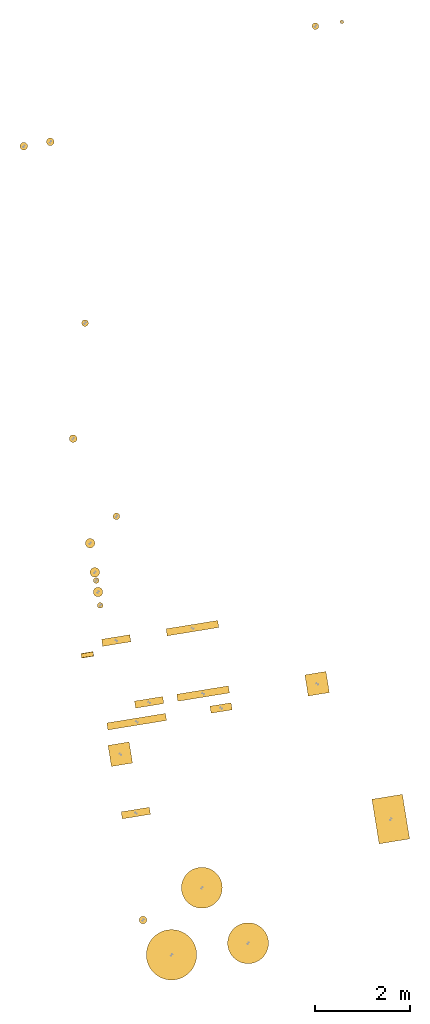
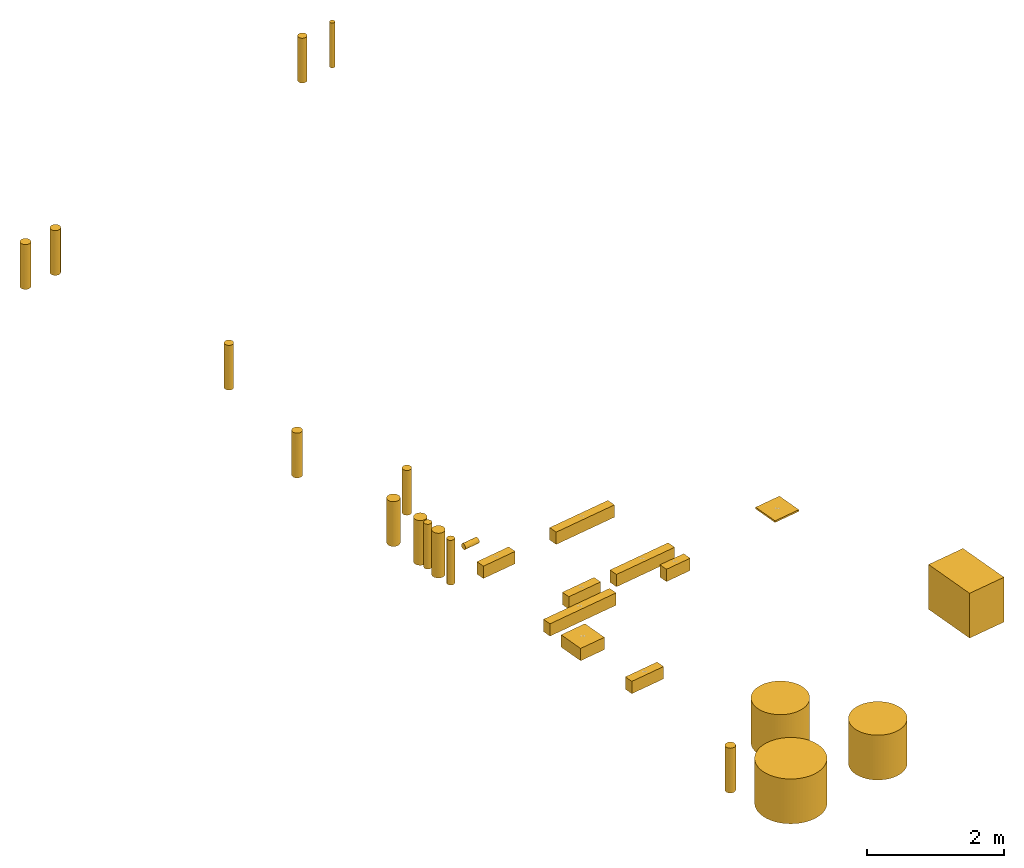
# One storey, part 4 of 4: 27 windows.
"""IFC2X3 building model written with IfcOpenShell, lengths in millimetres."""

from ifc_helpers import new_model, entity, si_unit, converted_unit, derived_unit, direction, frame, frame_2d, origin, origin_with_axes, origin_2d_with_axis, place, context, subcontext, project, spatial, rectangle, circle, extrude, source, transform, mapped, material, type_object, element, save


model = new_model("IFC2X3")

# Units and contexts
plan_context = context("Plan", 3, precision=1e-05, world=origin_with_axes())
model_context = context("Model", 3, precision=0.01, world=origin(), true_north=direction((6.12323399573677e-17, 1.0)))
body_context = subcontext(model_context, "Body", "Model", "MODEL_VIEW")
ifc_project = project(units=[converted_unit("PLANEANGLEUNIT", "DEGREE", entity("IfcPositiveLengthMeasure", 0.0174532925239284), si_unit("PLANEANGLEUNIT", "RADIAN"), dimensions=[0, 0, 0, 0, 0, 0, 0]), si_unit("AREAUNIT", "SQUARE_METRE"), si_unit("LENGTHUNIT", "METRE", prefix="MILLI"), si_unit("MASSUNIT", "GRAM", prefix="KILO"), si_unit("POWERUNIT", "WATT"), si_unit("PRESSUREUNIT", "PASCAL", prefix="KILO"), si_unit("FORCEUNIT", "NEWTON", prefix="KILO"), si_unit("ELECTRICVOLTAGEUNIT", "VOLT"), si_unit("ELECTRICCURRENTUNIT", "AMPERE"), si_unit("THERMODYNAMICTEMPERATUREUNIT", "DEGREE_CELSIUS"), si_unit("TIMEUNIT", "SECOND"), si_unit("VOLUMEUNIT", "CUBIC_METRE"), derived_unit("LINEARVELOCITYUNIT", [(si_unit("LENGTHUNIT", "METRE"), 1), (si_unit("TIMEUNIT", "SECOND"), -1)]), derived_unit("VOLUMETRICFLOWRATEUNIT", [(si_unit("VOLUMEUNIT", "CUBIC_METRE"), 1), (si_unit("TIMEUNIT", "SECOND"), -1)]), derived_unit("THERMALTRANSMITTANCEUNIT", [(si_unit("POWERUNIT", "WATT"), 1), (si_unit("THERMODYNAMICTEMPERATUREUNIT", "KELVIN"), -1), (si_unit("AREAUNIT", "SQUARE_METRE"), -1)]), derived_unit("SOUNDPRESSUREUNIT", [(si_unit("PRESSUREUNIT", "PASCAL"), 1)])], contexts=[model_context, plan_context])

# Site, building, storey
site_placement = place(None, frame((-0.00071070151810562, 0.00438415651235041, 0.0), z_axis=(0.0, 0.0, 1.0), x_axis=(-0.160236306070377, 0.987078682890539, 0.0)))
site = spatial("IfcSite", under=ifc_project, at=site_placement, Name="Default", CompositionType="ELEMENT")
building_placement = place(site_placement, origin_with_axes())
building = spatial("IfcBuilding", under=site, at=building_placement, CompositionType="ELEMENT")
storey_placement = place(building_placement, frame((0.0, 0.0, 58999.9999999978), z_axis=(0.0, 0.0, 1.0), x_axis=(1.0, 0.0, 0.0)))
storey = spatial("IfcBuildingStorey", under=building, at=storey_placement, Name="Nivå F", CompositionType="ELEMENT", Elevation=58999.9999999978)

# Windows
ifc_material = material(Name="Utsparing")
window_style_1 = type_object("IfcWindowStyle", Name="Utsparing Sirkulær:V", ConstructionType="NOTDEFINED", OperationType="NOTDEFINED", ParameterTakesPrecedence=False, Sizeable=False, material=ifc_material)
shared_shape_1 = source(origin(), body_context, "Body", "SweptSolid", [
    extrude(circle(Radius=430.0, at=frame_2d((0.0, -6.94684167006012e-13), x_axis=(1.0, 0.0))), frame((0.0, 0.0, 0.0), z_axis=(0.0, 0.0, 1.0), x_axis=(-1.0, 0.0, 0.0)), (0.0, 0.0, 1.0), 799.999999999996),
])
window_1_placement = place(storey_placement, frame((765178.590423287, -502496.834705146, -800.0), z_axis=(0.0, 0.0, 1.0), x_axis=(1.0, 0.0, 0.0)))
element("IfcWindow", 1, at=window_1_placement, inside=storey, type_object=window_style_1, material=ifc_material, Name="Utsparing Sirkulær:V", ObjectType="Utsparing Sirkulær:V", OverallHeight=860.0, OverallWidth=860.000000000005, context=body_context, shape_type="MappedRepresentation", body=[
    mapped(shared_shape_1, transform((0.0, 0.0, 0.0), scale=1.0)),
])
window_style_2 = type_object("IfcWindowStyle", Name="Utsparing Sirkulær:V", ConstructionType="NOTDEFINED", OperationType="NOTDEFINED", ParameterTakesPrecedence=False, Sizeable=False, material=ifc_material)
window_2_placement = place(storey_placement, frame((763870.86087582, -503270.00861507, -800.0), z_axis=(0.0, 0.0, 1.0), x_axis=(1.0, 0.0, 0.0)))
element("IfcWindow", 2, at=window_2_placement, inside=storey, type_object=window_style_2, material=ifc_material, Name="Utsparing Sirkulær:V", ObjectType="Utsparing Sirkulær:V", OverallHeight=860.0, OverallWidth=860.000000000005, context=body_context, shape_type="MappedRepresentation", body=[
    mapped(shared_shape_1, transform((0.0, 0.0, 0.0), scale=1.0)),
])
window_style_3 = type_object("IfcWindowStyle", Name="Hullboring Sirkulær:V", ConstructionType="NOTDEFINED", OperationType="NOTDEFINED", ParameterTakesPrecedence=False, Sizeable=False, material=ifc_material)
shared_shape_2 = source(origin(), body_context, "Body", "SweptSolid", [
    extrude(circle(Radius=80.0, at=frame_2d((0.0, -1.29243565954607e-13), x_axis=(1.0, 0.0))), frame((0.0, 0.0, 0.0), z_axis=(0.0, 0.0, 1.0), x_axis=(-1.0, 0.0, 0.0)), (0.0, 0.0, 1.0), 799.999999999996),
])
window_3_placement = place(storey_placement, frame((764707.011605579, -501165.91880016, -800.0), z_axis=(0.0, 0.0, 1.0), x_axis=(1.0, 0.0, 0.0)))
element("IfcWindow", 3, at=window_3_placement, inside=storey, type_object=window_style_3, material=ifc_material, Name="Hullboring Sirkulær:V", ObjectType="Hullboring Sirkulær:V", OverallHeight=200.000000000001, OverallWidth=160.000000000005, context=body_context, shape_type="MappedRepresentation", body=[
    mapped(shared_shape_2, transform((0.0, 0.0, 0.0), scale=1.0)),
])
window_style_4 = type_object("IfcWindowStyle", Name="Hullboring Sirkulær:V", ConstructionType="NOTDEFINED", OperationType="NOTDEFINED", ParameterTakesPrecedence=False, Sizeable=False, material=ifc_material)
window_4_placement = place(storey_placement, frame((781183.362919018, -501299.044759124, -800.0), z_axis=(0.0, 0.0, 1.0), x_axis=(1.0, 0.0, 0.0)))
element("IfcWindow", 4, at=window_4_placement, inside=storey, type_object=window_style_4, material=ifc_material, Name="Hullboring Sirkulær:V", ObjectType="Hullboring Sirkulær:V", OverallHeight=200.000000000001, OverallWidth=160.000000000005, context=body_context, shape_type="MappedRepresentation", body=[
    mapped(shared_shape_2, transform((0.0, 0.0, 0.0), scale=1.0)),
])
window_style_5 = type_object("IfcWindowStyle", Name="Hullboring Sirkulær:V", ConstructionType="NOTDEFINED", OperationType="NOTDEFINED", ParameterTakesPrecedence=False, Sizeable=False, material=ifc_material)
window_5_placement = place(storey_placement, frame((781183.478688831, -501863.828201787, -800.0), z_axis=(0.0, 0.0, 1.0), x_axis=(1.0, 0.0, 0.0)))
element("IfcWindow", 5, at=window_5_placement, inside=storey, type_object=window_style_5, material=ifc_material, Name="Hullboring Sirkulær:V", ObjectType="Hullboring Sirkulær:V", OverallHeight=200.000000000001, OverallWidth=160.000000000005, context=body_context, shape_type="MappedRepresentation", body=[
    mapped(shared_shape_2, transform((0.0, 0.0, 0.0), scale=1.0)),
])
window_style_6 = type_object("IfcWindowStyle", Name="Hullboring Sirkulær:V", ConstructionType="NOTDEFINED", OperationType="NOTDEFINED", ParameterTakesPrecedence=False, Sizeable=False, material=ifc_material)
window_6_placement = place(storey_placement, frame((774942.68391495, -501337.867184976, -800.0), z_axis=(0.0, 0.0, 1.0), x_axis=(1.0, 0.0, 0.0)))
element("IfcWindow", 6, at=window_6_placement, inside=storey, type_object=window_style_6, material=ifc_material, Name="Hullboring Sirkulær:V", ObjectType="Hullboring Sirkulær:V", OverallHeight=200.000000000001, OverallWidth=160.000000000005, context=body_context, shape_type="MappedRepresentation", body=[
    mapped(shared_shape_2, transform((0.0, 0.0, 0.0), scale=1.0)),
])
window_style_7 = type_object("IfcWindowStyle", Name="Utsparing Sirkulær:V", ConstructionType="NOTDEFINED", OperationType="NOTDEFINED", ParameterTakesPrecedence=False, Sizeable=False, material=ifc_material)
shared_shape_3 = source(origin(), body_context, "Body", "SweptSolid", [
    extrude(circle(Radius=530.0, at=frame_2d((0.0, -8.56238624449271e-13), x_axis=(1.0, 0.0))), frame((0.0, 0.0, 0.0), z_axis=(0.0, 0.0, 1.0), x_axis=(-1.0, 0.0, 0.0)), (0.0, 0.0, 1.0), 799.999999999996),
])
window_7_placement = place(storey_placement, frame((763887.589603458, -501640.722911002, -800.0), z_axis=(0.0, 0.0, 1.0), x_axis=(1.0, 0.0, 0.0)))
element("IfcWindow", 7, at=window_7_placement, inside=storey, type_object=window_style_7, material=ifc_material, Name="Utsparing Sirkulær:V", ObjectType="Utsparing Sirkulær:V", OverallHeight=1060.0, OverallWidth=1060.00000000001, context=body_context, shape_type="MappedRepresentation", body=[
    mapped(shared_shape_3, transform((0.0, 0.0, 0.0), scale=1.0)),
])
window_style_8 = type_object("IfcWindowStyle", Name="Hullboring Sirkulær:V", ConstructionType="NOTDEFINED", OperationType="NOTDEFINED", ParameterTakesPrecedence=False, Sizeable=False, material=ifc_material)
shared_shape_4 = source(origin(), body_context, "Body", "SweptSolid", [
    extrude(circle(Radius=60.0, at=frame_2d((0.0, -9.69326744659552e-14), x_axis=(1.0, 0.0))), frame((0.0, 0.0, 0.0), z_axis=(0.0, 0.0, 1.0), x_axis=(-1.0, 0.0, 0.0)), (0.0, 0.0, 1.0), 799.999999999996),
])
window_8_placement = place(storey_placement, frame((771386.919644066, -501336.519932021, -800.0), z_axis=(0.0, 0.0, 1.0), x_axis=(1.0, 0.0, 0.0)))
element("IfcWindow", 8, at=window_8_placement, inside=storey, type_object=window_style_8, material=ifc_material, Name="Hullboring Sirkulær:V", ObjectType="Hullboring Sirkulær:V", OverallHeight=200.000000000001, OverallWidth=120.000000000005, context=body_context, shape_type="MappedRepresentation", body=[
    mapped(shared_shape_4, transform((0.0, 0.0, 0.0), scale=1.0)),
])
window_style_9 = type_object("IfcWindowStyle", Name="Hullboring Sirkulær:V", ConstructionType="NOTDEFINED", OperationType="NOTDEFINED", ParameterTakesPrecedence=False, Sizeable=False, material=ifc_material)
window_9_placement = place(storey_placement, frame((771916.919644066, -501336.519932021, -800.0), z_axis=(0.0, 0.0, 1.0), x_axis=(1.0, 0.0, 0.0)))
element("IfcWindow", 9, at=window_9_placement, inside=storey, type_object=window_style_9, material=ifc_material, Name="Hullboring Sirkulær:V", ObjectType="Hullboring Sirkulær:V", OverallHeight=200.000000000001, OverallWidth=120.000000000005, context=body_context, shape_type="MappedRepresentation", body=[
    mapped(shared_shape_4, transform((0.0, 0.0, 0.0), scale=1.0)),
])
window_style_10 = type_object("IfcWindowStyle", Name="Utsparing Rektangulær:V", ConstructionType="NOTDEFINED", OperationType="NOTDEFINED", ParameterTakesPrecedence=False, Sizeable=False, material=ifc_material)
shared_shape_5 = source(origin(), body_context, "Body", "SweptSolid", [
    extrude(rectangle(XDim=950.0, YDim=649.999999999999, at=origin_2d_with_axis()), frame((0.0, 0.0, 0.0), z_axis=(0.0, 0.0, 1.0), x_axis=(-1.0, 0.0, 0.0)), (0.0, 0.0, 1.0), 799.999999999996),
])
window_10_placement = place(storey_placement, frame((765967.619644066, -506652.480498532, -800.0), z_axis=(0.0, 0.0, 1.0), x_axis=(1.0, 0.0, 0.0)))
element("IfcWindow", 10, at=window_10_placement, inside=storey, type_object=window_style_10, material=ifc_material, Name="Utsparing Rektangulær:V", ObjectType="Utsparing Rektangulær:V", OverallHeight=749.999999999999, OverallWidth=1050.0, context=body_context, shape_type="MappedRepresentation", body=[
    mapped(shared_shape_5, transform((0.0, 0.0, 0.0), scale=1.0)),
])
window_style_11 = type_object("IfcWindowStyle", Name="Utsparing Rektangulær:E", ConstructionType="NOTDEFINED", OperationType="NOTDEFINED", ParameterTakesPrecedence=False, Sizeable=False, material=ifc_material)
shared_shape_6 = source(origin(), body_context, "Body", "SweptSolid", [
    extrude(rectangle(XDim=450.0, YDim=449.999999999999, at=origin_2d_with_axis()), frame((0.0, 0.0, 0.0), z_axis=(0.0, 0.0, 1.0), x_axis=(-1.0, 0.0, 0.0)), (0.0, 0.0, 1.0), 29.9999999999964),
])
window_11_placement = place(storey_placement, frame((769027.619644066, -505579.077763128, -70.0), z_axis=(0.0, 0.0, -1.0), x_axis=(1.0, 0.0, 0.0)))
element("IfcWindow", 11, at=window_11_placement, inside=storey, type_object=window_style_11, material=ifc_material, Name="Utsparing Rektangulær:E", ObjectType="Utsparing Rektangulær:E", OverallHeight=549.999999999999, OverallWidth=550.000000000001, context=body_context, shape_type="MappedRepresentation", body=[
    mapped(shared_shape_6, transform((0.0, 0.0, 0.0), scale=1.0)),
])
window_style_12 = type_object("IfcWindowStyle", Name="Hullboring Sirkulær:V", ConstructionType="NOTDEFINED", OperationType="NOTDEFINED", ParameterTakesPrecedence=False, Sizeable=False, material=ifc_material)
shared_shape_7 = source(origin(), body_context, "Body", "SweptSolid", [
    extrude(circle(Radius=100.0, at=frame_2d((0.0, -1.61554457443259e-13), x_axis=(1.0, 0.0))), frame((0.0, 0.0, 0.0), z_axis=(0.0, 0.0, 1.0), x_axis=(-1.0, 0.0, 0.0)), (0.0, 0.0, 1.0), 799.999999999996),
])
window_12_placement = place(storey_placement, frame((771672.62648396, -501337.287481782, -800.0), z_axis=(0.0, 0.0, 1.0), x_axis=(1.0, 0.0, 0.0)))
element("IfcWindow", 12, at=window_12_placement, inside=storey, type_object=window_style_12, material=ifc_material, Name="Hullboring Sirkulær:V", ObjectType="Hullboring Sirkulær:V", OverallHeight=200.000000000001, OverallWidth=200.000000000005, context=body_context, shape_type="MappedRepresentation", body=[
    mapped(shared_shape_7, transform((0.0, 0.0, 0.0), scale=1.0)),
])
window_style_13 = type_object("IfcWindowStyle", Name="Hullboring Sirkulær:V", ConstructionType="NOTDEFINED", OperationType="NOTDEFINED", ParameterTakesPrecedence=False, Sizeable=False, material=ifc_material)
window_13_placement = place(storey_placement, frame((772092.619232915, -501337.287481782, -800.0), z_axis=(0.0, 0.0, 1.0), x_axis=(1.0, 0.0, 0.0)))
element("IfcWindow", 13, at=window_13_placement, inside=storey, type_object=window_style_13, material=ifc_material, Name="Hullboring Sirkulær:V", ObjectType="Hullboring Sirkulær:V", OverallHeight=200.000000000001, OverallWidth=200.000000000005, context=body_context, shape_type="MappedRepresentation", body=[
    mapped(shared_shape_7, transform((0.0, 0.0, 0.0), scale=1.0)),
])
window_style_14 = type_object("IfcWindowStyle", Name="Hullboring Sirkulær:V", ConstructionType="NOTDEFINED", OperationType="NOTDEFINED", ParameterTakesPrecedence=False, Sizeable=False, material=ifc_material)
window_14_placement = place(storey_placement, frame((772712.619232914, -501337.287481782, -800.0), z_axis=(0.0, 0.0, 1.0), x_axis=(1.0, 0.0, 0.0)))
element("IfcWindow", 14, at=window_14_placement, inside=storey, type_object=window_style_14, material=ifc_material, Name="Hullboring Sirkulær:V", ObjectType="Hullboring Sirkulær:V", OverallHeight=200.000000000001, OverallWidth=200.000000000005, context=body_context, shape_type="MappedRepresentation", body=[
    mapped(shared_shape_7, transform((0.0, 0.0, 0.0), scale=1.0)),
])
window_style_15 = type_object("IfcWindowStyle", Name="Utsparing Rektangulær:E", ConstructionType="NOTDEFINED", OperationType="NOTDEFINED", ParameterTakesPrecedence=False, Sizeable=False, material=ifc_material)
shared_shape_8 = source(origin(), body_context, "Body", "SweptSolid", [
    extrude(rectangle(XDim=450.0, YDim=449.999999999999, at=origin_2d_with_axis()), frame((0.0, 0.0, 0.0), z_axis=(0.0, 0.0, 1.0), x_axis=(-1.0, 0.0, 0.0)), (0.0, 0.0, 1.0), 219.999999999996),
])
window_15_placement = place(storey_placement, frame((768227.61964402, -501252.480498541, 2.19733919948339e-09), z_axis=(0.0, 0.0, -1.0), x_axis=(1.0, 0.0, 0.0)))
element("IfcWindow", 15, at=window_15_placement, inside=storey, type_object=window_style_15, material=ifc_material, Name="Utsparing Rektangulær:E", ObjectType="Utsparing Rektangulær:E", OverallHeight=549.999999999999, OverallWidth=550.000000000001, context=body_context, shape_type="MappedRepresentation", body=[
    mapped(shared_shape_8, transform((0.0, 0.0, 0.0), scale=1.0)),
])
window_style_16 = type_object("IfcWindowStyle", Name="Utsparing Rektangulær:E", ConstructionType="NOTDEFINED", OperationType="NOTDEFINED", ParameterTakesPrecedence=False, Sizeable=False, material=ifc_material)
shared_shape_9 = source(origin(), body_context, "Body", "SweptSolid", [
    extrude(rectangle(XDim=150.0, YDim=599.999999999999, at=origin_2d_with_axis()), frame((0.0, 0.0, 0.0), z_axis=(0.0, 0.0, 1.0), x_axis=(-1.0, 0.0, 0.0)), (0.0, 0.0, 1.0), 219.999999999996),
])
window_16_placement = place(storey_placement, frame((766952.619644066, -501377.470605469, 2.19733919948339e-09), z_axis=(0.0, 0.0, -1.0), x_axis=(1.0, 0.0, 0.0)))
element("IfcWindow", 16, at=window_16_placement, inside=storey, type_object=window_style_16, material=ifc_material, Name="Utsparing Rektangulær:E", ObjectType="Utsparing Rektangulær:E", OverallHeight=699.999999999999, OverallWidth=250.000000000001, context=body_context, shape_type="MappedRepresentation", body=[
    mapped(shared_shape_9, transform((0.0, 0.0, 0.0), scale=1.0)),
])
window_style_17 = type_object("IfcWindowStyle", Name="Utsparing Rektangulær:E", ConstructionType="NOTDEFINED", OperationType="NOTDEFINED", ParameterTakesPrecedence=False, Sizeable=False, material=ifc_material)
window_17_placement = place(storey_placement, frame((770602.619644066, -501552.470605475, 2.19733919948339e-09), z_axis=(0.0, 0.0, -1.0), x_axis=(1.0, 0.0, 0.0)))
element("IfcWindow", 17, at=window_17_placement, inside=storey, type_object=window_style_17, material=ifc_material, Name="Utsparing Rektangulær:E", ObjectType="Utsparing Rektangulær:E", OverallHeight=699.999999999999, OverallWidth=250.000000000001, context=body_context, shape_type="MappedRepresentation", body=[
    mapped(shared_shape_9, transform((0.0, 0.0, 0.0), scale=1.0)),
])
window_style_18 = type_object("IfcWindowStyle", Name="Utsparing Rektangulær:E", ConstructionType="NOTDEFINED", OperationType="NOTDEFINED", ParameterTakesPrecedence=False, Sizeable=False, material=ifc_material)
window_18_placement = place(storey_placement, frame((769207.619644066, -502027.470605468, 2.19733919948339e-09), z_axis=(0.0, 0.0, -1.0), x_axis=(1.0, 0.0, 0.0)))
element("IfcWindow", 18, at=window_18_placement, inside=storey, type_object=window_style_18, material=ifc_material, Name="Utsparing Rektangulær:E", ObjectType="Utsparing Rektangulær:E", OverallHeight=699.999999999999, OverallWidth=250.000000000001, context=body_context, shape_type="MappedRepresentation", body=[
    mapped(shared_shape_9, transform((0.0, 0.0, 0.0), scale=1.0)),
])
window_style_19 = type_object("IfcWindowStyle", Name="Utsparing Rektangulær:E", ConstructionType="NOTDEFINED", OperationType="NOTDEFINED", ParameterTakesPrecedence=False, Sizeable=False, material=ifc_material)
shared_shape_10 = source(origin(), body_context, "Body", "SweptSolid", [
    extrude(rectangle(XDim=150.0, YDim=1250.0, at=origin_2d_with_axis()), frame((0.0, 0.0, 0.0), z_axis=(0.0, 0.0, 1.0), x_axis=(-1.0, 0.0, 0.0)), (0.0, 0.0, 1.0), 219.999999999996),
])
window_19_placement = place(storey_placement, frame((768847.619644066, -501702.470605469, 2.19733919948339e-09), z_axis=(0.0, 0.0, -1.0), x_axis=(1.0, 0.0, 0.0)))
element("IfcWindow", 19, at=window_19_placement, inside=storey, type_object=window_style_19, material=ifc_material, Name="Utsparing Rektangulær:E", ObjectType="Utsparing Rektangulær:E", OverallHeight=1350.0, OverallWidth=250.000000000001, context=body_context, shape_type="MappedRepresentation", body=[
    mapped(shared_shape_10, transform((0.0, 0.0, 0.0), scale=1.0)),
])
window_style_20 = type_object("IfcWindowStyle", Name="Utsparing Rektangulær:E", ConstructionType="NOTDEFINED", OperationType="NOTDEFINED", ParameterTakesPrecedence=False, Sizeable=False, material=ifc_material)
shared_shape_11 = source(origin(), body_context, "Body", "SweptSolid", [
    extrude(rectangle(XDim=150.0, YDim=1100.0, at=origin_2d_with_axis()), frame((0.0, 0.0, 0.0), z_axis=(0.0, 0.0, 1.0), x_axis=(-1.0, 0.0, 0.0)), (0.0, 0.0, 1.0), 219.999999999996),
])
window_20_placement = place(storey_placement, frame((770602.619644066, -503177.470605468, 2.19733919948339e-09), z_axis=(0.0, 0.0, -1.0), x_axis=(1.0, 0.0, 0.0)))
element("IfcWindow", 20, at=window_20_placement, inside=storey, type_object=window_style_20, material=ifc_material, Name="Utsparing Rektangulær:E", ObjectType="Utsparing Rektangulær:E", OverallHeight=1200.0, OverallWidth=250.000000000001, context=body_context, shape_type="MappedRepresentation", body=[
    mapped(shared_shape_11, transform((0.0, 0.0, 0.0), scale=1.0)),
])
window_style_21 = type_object("IfcWindowStyle", Name="Utsparing Rektangulær:E", ConstructionType="NOTDEFINED", OperationType="NOTDEFINED", ParameterTakesPrecedence=False, Sizeable=False, material=ifc_material)
window_21_placement = place(storey_placement, frame((769207.619644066, -503177.470605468, 2.19733919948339e-09), z_axis=(0.0, 0.0, -1.0), x_axis=(1.0, 0.0, 0.0)))
element("IfcWindow", 21, at=window_21_placement, inside=storey, type_object=window_style_21, material=ifc_material, Name="Utsparing Rektangulær:E", ObjectType="Utsparing Rektangulær:E", OverallHeight=1200.0, OverallWidth=250.000000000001, context=body_context, shape_type="MappedRepresentation", body=[
    mapped(shared_shape_11, transform((0.0, 0.0, 0.0), scale=1.0)),
])
window_style_22 = type_object("IfcWindowStyle", Name="Utsparing Rektangulær:E", ConstructionType="NOTDEFINED", OperationType="NOTDEFINED", ParameterTakesPrecedence=False, Sizeable=False, material=ifc_material)
shared_shape_12 = source(origin(), body_context, "Body", "SweptSolid", [
    extrude(rectangle(XDim=150.0, YDim=449.999999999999, at=origin_2d_with_axis()), frame((0.0, 0.0, 0.0), z_axis=(0.0, 0.0, 1.0), x_axis=(-1.0, 0.0, 0.0)), (0.0, 0.0, 1.0), 219.999999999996),
])
window_22_placement = place(storey_placement, frame((768847.619644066, -503502.470605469, 2.19733919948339e-09), z_axis=(0.0, 0.0, -1.0), x_axis=(1.0, 0.0, 0.0)))
element("IfcWindow", 22, at=window_22_placement, inside=storey, type_object=window_style_22, material=ifc_material, Name="Utsparing Rektangulær:E", ObjectType="Utsparing Rektangulær:E", OverallHeight=549.999999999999, OverallWidth=250.000000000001, context=body_context, shape_type="MappedRepresentation", body=[
    mapped(shared_shape_12, transform((0.0, 0.0, 0.0), scale=1.0)),
])
window_style_23 = type_object("IfcWindowStyle", Name="Hullboring Sirkulær:V", ConstructionType="NOTDEFINED", OperationType="NOTDEFINED", ParameterTakesPrecedence=False, Sizeable=False, material=ifc_material)
shared_shape_13 = source(origin(), body_context, "Body", "SweptSolid", [
    extrude(circle(Radius=70.0, at=frame_2d((0.0, -1.13088120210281e-13), x_axis=(1.0, 0.0))), frame((0.0, 0.0, 0.0), z_axis=(0.0, 0.0, 1.0), x_axis=(-1.0, 0.0, 0.0)), (0.0, 0.0, 1.0), 799.999999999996),
])
window_23_placement = place(storey_placement, frame((777301.838647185, -501974.143157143, -800.0), z_axis=(0.0, 0.0, 1.0), x_axis=(1.0, 0.0, 0.0)))
element("IfcWindow", 23, at=window_23_placement, inside=storey, type_object=window_style_23, material=ifc_material, Name="Hullboring Sirkulær:V", ObjectType="Hullboring Sirkulær:V", OverallHeight=200.000000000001, OverallWidth=140.000000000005, context=body_context, shape_type="MappedRepresentation", body=[
    mapped(shared_shape_13, transform((0.0, 0.0, 0.0), scale=1.0)),
])
window_style_24 = type_object("IfcWindowStyle", Name="Hullboring Sirkulær:V", ConstructionType="NOTDEFINED", OperationType="NOTDEFINED", ParameterTakesPrecedence=False, Sizeable=False, material=ifc_material)
window_24_placement = place(storey_placement, frame((773181.838647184, -501974.143157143, -800.0), z_axis=(0.0, 0.0, 1.0), x_axis=(1.0, 0.0, 0.0)))
element("IfcWindow", 24, at=window_24_placement, inside=storey, type_object=window_style_24, material=ifc_material, Name="Hullboring Sirkulær:V", ObjectType="Hullboring Sirkulær:V", OverallHeight=200.000000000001, OverallWidth=140.000000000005, context=body_context, shape_type="MappedRepresentation", body=[
    mapped(shared_shape_13, transform((0.0, 0.0, 0.0), scale=1.0)),
])
window_style_25 = type_object("IfcWindowStyle", Name="Hullboring Sirkulær:V", ConstructionType="NOTDEFINED", OperationType="NOTDEFINED", ParameterTakesPrecedence=False, Sizeable=False, material=ifc_material)
window_25_placement = place(storey_placement, frame((782692.510273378, -507761.483544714, -800.0), z_axis=(0.0, 0.0, 1.0), x_axis=(1.0, 0.0, 0.0)))
element("IfcWindow", 25, at=window_25_placement, inside=storey, type_object=window_style_25, material=ifc_material, Name="Hullboring Sirkulær:V", ObjectType="Hullboring Sirkulær:V", OverallHeight=200.000000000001, OverallWidth=140.000000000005, context=body_context, shape_type="MappedRepresentation", body=[
    mapped(shared_shape_13, transform((0.0, 0.0, 0.0), scale=1.0)),
])
window_style_26 = type_object("IfcWindowStyle", Name="Hullboring Sirkulær:V", ConstructionType="NOTDEFINED", OperationType="NOTDEFINED", ParameterTakesPrecedence=False, Sizeable=False, material=ifc_material)
shared_shape_14 = source(origin(), body_context, "Body", "SweptSolid", [
    extrude(circle(Radius=40.0, at=frame_2d((0.0, -6.46217829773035e-14), x_axis=(1.0, 0.0))), frame((0.0, 0.0, 0.0), z_axis=(0.0, 0.0, 1.0), x_axis=(-1.0, 0.0, 0.0)), (0.0, 0.0, 1.0), 799.999999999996),
])
window_26_placement = place(storey_placement, frame((782692.510273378, -508326.200817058, -800.0), z_axis=(0.0, 0.0, 1.0), x_axis=(1.0, 0.0, 0.0)))
element("IfcWindow", 26, at=window_26_placement, inside=storey, type_object=window_style_26, material=ifc_material, Name="Hullboring Sirkulær:V", ObjectType="Hullboring Sirkulær:V", OverallHeight=200.000000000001, OverallWidth=100.0, context=body_context, shape_type="MappedRepresentation", body=[
    mapped(shared_shape_14, transform((0.0, 0.0, 0.0), scale=1.0)),
])
window_style_27 = type_object("IfcWindowStyle", Name="Hullboring Sirkulær:E", ConstructionType="NOTDEFINED", OperationType="NOTDEFINED", ParameterTakesPrecedence=False, Sizeable=False, material=ifc_material)
shared_shape_15 = source(origin(), body_context, "Body", "SweptSolid", [
    extrude(circle(Radius=50.0, at=frame_2d((0.0, -8.07772287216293e-14), x_axis=(1.0, 0.0))), frame((0.0, 0.0, 0.0), z_axis=(0.0, 0.0, 1.0), x_axis=(-1.0, 0.0, 0.0)), (0.0, 0.0, 1.0), 259.999999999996),
])
window_27_placement = place(storey_placement, frame((770402.619644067, -501034.427728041, 630.0), z_axis=(0.0, 1.0, 0.0), x_axis=(-1.0, 0.0, 0.0)))
element("IfcWindow", 27, at=window_27_placement, inside=storey, type_object=window_style_27, material=ifc_material, Name="Hullboring Sirkulær:E", ObjectType="Hullboring Sirkulær:E", OverallHeight=200.0, OverallWidth=100.000000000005, context=body_context, shape_type="MappedRepresentation", body=[
    mapped(shared_shape_15, transform((0.0, 0.0, 0.0), scale=1.0)),
])

save(model, "model.ifc")
